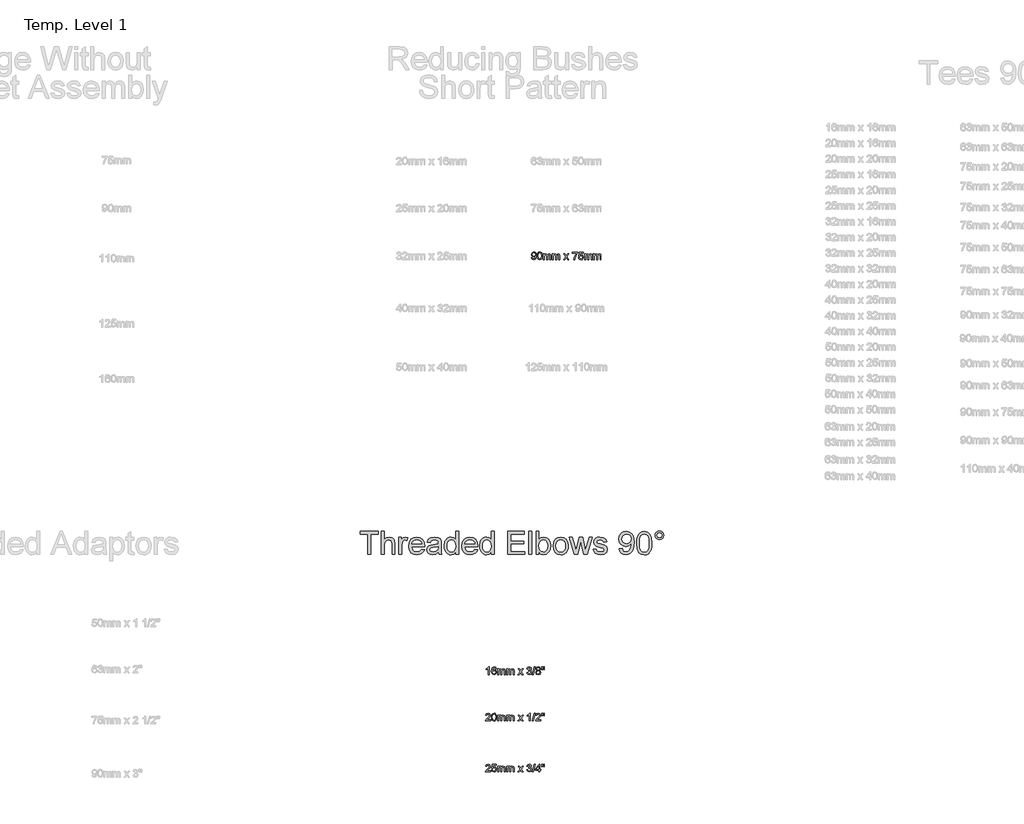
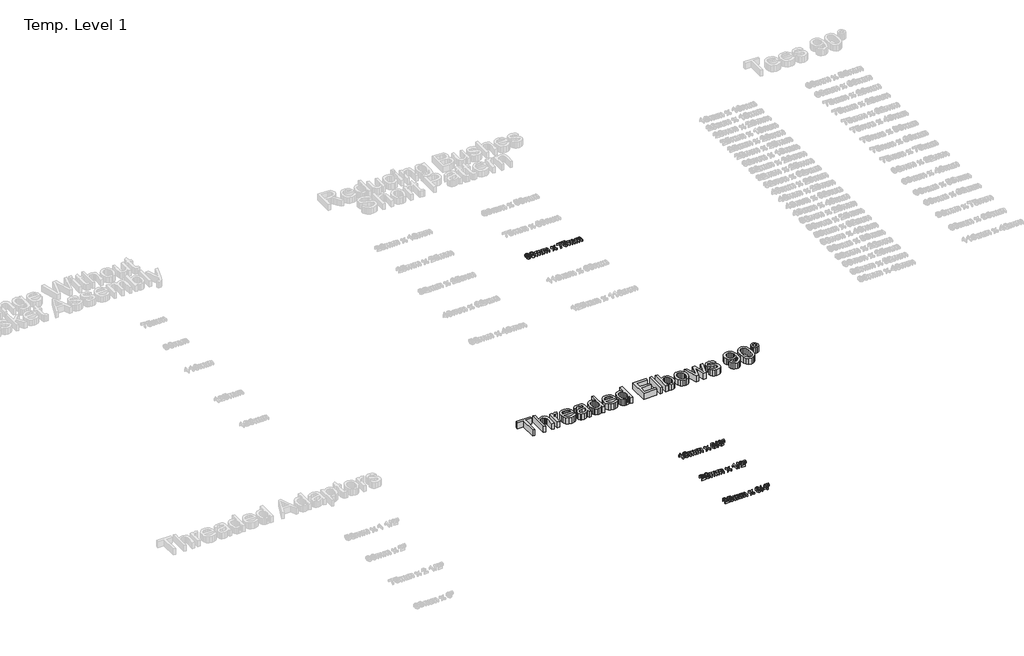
# One storey, part 23 of 62: 5 proxies.
"""IFC4 building model written with IfcOpenShell, lengths in millimetres."""

from ifc_helpers import new_model, si_unit, origin, origin_with_axes, place, context, project, spatial, polyline, outline, extrude, element, save

model = new_model("IFC4")

# Units and contexts
model_context = context("Model", 3, world=origin())
ifc_project = project(units=[si_unit("LENGTHUNIT", "METRE", prefix="MILLI")], contexts=[model_context])

# Site, building, storey
site = spatial("IfcSite", under=ifc_project)
building = spatial("IfcBuilding", under=site)
storey = spatial("IfcBuildingStorey", under=building, Name="Temp. Level 1", Elevation=0.0)

# Proxies
placement = place(None, origin())
element("IfcBuildingElementProxy", 1, Name="150mm Arial", ObjectType="150mm Arial", at=placement, inside=storey, context=model_context, shape_type="SweptSolid", body=[
    extrude(outline(polyline([(23494.9637904, -10070.198517), (23494.9637904, -9940.9677478), (23446.5022519, -9940.9677478), (23446.5022519, -9922.5062093), (23561.8868673, -9922.5062093), (23561.8868673, -9940.9677478), (23513.4253288, -9940.9677478), (23513.4253288, -10070.198517), (23494.9637904, -10070.198517)])), origin_with_axes(), (0.0, 0.0, 1.0), 50.0),
    extrude(outline(polyline([(23580.3484058, -10070.198517), (23580.3484058, -9922.5062093), (23598.8099442, -9922.5062093), (23598.8099442, -9976.8090939), (23613.2059779, -9963.7742382), (23630.9373481, -9959.4292862), (23651.6705212, -9964.1708728), (23664.2546558, -9977.2778439), (23668.0407135, -10001.5446709), (23668.0407135, -10070.198517), (23649.579175, -10070.198517), (23649.579175, -10003.4557286), (23648.109824, -9991.8992382), (23643.7017712, -9983.9845747), (23636.5984058, -9979.4142622), (23627.0431173, -9977.8908247), (23611.9169154, -9982.0014016), (23601.8207615, -9993.1432286), (23598.8099442, -10012.5783247), (23598.8099442, -10070.198517), (23580.3484058, -10070.198517)])), origin_with_axes(), (0.0, 0.0, 1.0), 50.0),
    extrude(outline(polyline([(23693.4253288, -10070.198517), (23693.4253288, -9961.7369786), (23709.579175, -9961.7369786), (23709.579175, -9977.7826516), (23721.0455212, -9962.9989978), (23732.5839827, -9959.4292862), (23751.1176365, -9965.1264016), (23744.9517712, -9981.6768824), (23731.9710019, -9977.8908247), (23721.5323, -9981.5326516), (23714.8796558, -9991.6288055), (23711.8868673, -10013.1913055), (23711.8868673, -10070.198517), (23693.4253288, -10070.198517)])), origin_with_axes(), (0.0, 0.0, 1.0), 50.0),
    extrude(outline(polyline([(23838.5935981, -10037.8908247), (23856.6945596, -10040.198517), (23850.1726245, -10053.8373391), (23839.7654731, -10064.0326516), (23825.7074803, -10070.3878199), (23808.2330212, -10072.5062093), (23786.5713625, -10068.8508608), (23769.9036942, -10057.8848151), (23759.2756894, -10040.3202117), (23755.7330212, -10016.8691901), (23759.3117471, -9992.6294064), (23770.047925, -9974.5014016), (23786.4902327, -9963.1973151), (23807.1873481, -9959.4292862), (23827.2399322, -9963.1883007), (23843.2630692, -9974.4653439), (23853.7693793, -9992.5572911), (23857.2714827, -10016.761017), (23857.1633096, -10021.7369786), (23774.1945596, -10021.7369786), (23777.3901726, -10035.5560891), (23784.81355, -10045.7153439), (23795.5271918, -10051.9623391), (23808.5935981, -10054.0446709), (23826.6945596, -10050.1864978), (23838.5935981, -10037.8908247)]), holes=[polyline([(23774.1945596, -10003.2754401), (23838.8099442, -10003.2754401), (23836.312949, -9993.5218343), (23831.4181173, -9986.5446709), (23820.6548962, -9980.0542862), (23807.1152327, -9977.8908247), (23794.6708216, -9979.6170867), (23784.3808577, -9984.7958728), (23777.227913, -9992.8682887), (23774.1945596, -10003.2754401)])]), origin_with_axes(), (0.0, 0.0, 1.0), 50.0),
    extrude(outline(polyline([(23944.9637904, -10056.3523632), (23927.0611462, -10068.8643824), (23907.2835019, -10072.5062093), (23891.8553168, -10070.3157045), (23880.4746077, -10063.7441901), (23873.4568793, -10053.7652237), (23871.1176365, -10041.3523632), (23874.6512904, -10026.7489978), (23883.9361462, -10016.1480362), (23896.8628288, -10010.0903439), (23912.8363865, -10007.3139016), (23944.8556173, -10000.9677478), (23944.9637904, -9996.8571709), (23943.6927567, -9988.6179882), (23939.8796558, -9983.2273632), (23931.3520115, -9979.2249593), (23919.4710019, -9977.8908247), (23900.7931173, -9981.4425074), (23891.8868673, -9994.0446709), (23873.4253288, -9991.7369786), (23881.4121077, -9973.7081324), (23897.4938385, -9963.1432286), (23921.8508096, -9959.4292862), (23944.2246077, -9962.7105362), (23956.8628288, -9970.9497189), (23962.5238865, -9983.479767), (23963.4253288, -9999.6336132), (23963.4253288, -10022.6023632), (23964.3628288, -10054.6756805), (23968.0407135, -10070.198517), (23949.579175, -10070.198517), (23944.9637904, -10056.3523632)]), holes=[polyline([(23944.9637904, -10019.4292862), (23915.1801365, -10025.0903439), (23899.2967231, -10028.0831324), (23892.1032135, -10032.9509209), (23889.579175, -10040.0542862), (23895.0779731, -10050.042267), (23911.2137904, -10054.0446709), (23929.891675, -10049.6276036), (23941.9349442, -10038.9364978), (23944.8556173, -10024.6576516), (23944.9637904, -10019.4292862)])]), origin_with_axes(), (0.0, 0.0, 1.0), 50.0),
    extrude(outline(polyline([(24055.7330212, -10070.198517), (24055.7330212, -10052.7826516), (24043.5184779, -10067.5753199), (24026.6344635, -10072.5062093), (24014.6993673, -10070.7213536), (24003.7738865, -10065.3667862), (23994.5250885, -10056.816606), (23987.6200404, -10045.4449112), (23983.3201606, -10031.7114377), (23981.8868673, -10016.0759209), (23987.1693192, -9986.6889016), (23993.7678769, -9975.0332526), (24002.9986462, -9966.4605362), (24014.1630091, -9961.1870987), (24026.5623481, -9959.4292862), (24043.5815788, -9964.4593343), (24055.7330212, -9977.5302478), (24055.7330212, -9922.5062093), (24074.1945596, -9922.5062093), (24074.1945596, -10070.198517), (24055.7330212, -10070.198517)]), holes=[polyline([(24000.3484058, -10016.0038055), (24002.4307375, -10032.7030242), (24008.6777327, -10044.5795266), (24017.7552567, -10051.6783848), (24028.329175, -10054.0446709), (24038.8985861, -10051.7865579), (24047.7462423, -10045.0122189), (24053.7363264, -10033.5954521), (24055.7330212, -10017.4100555), (24053.7002688, -9999.714743), (24047.6020115, -9987.4461132), (24038.5289947, -9980.2796468), (24027.5719635, -9977.8908247), (24016.8898721, -9980.1849954), (24008.1368673, -9987.0675074), (24002.2955212, -9998.8899233), (24000.3484058, -10016.0038055)])]), origin_with_axes(), (0.0, 0.0, 1.0), 50.0),
    extrude(outline(polyline([(24177.8243673, -10037.8908247), (24195.9253288, -10040.198517), (24189.4033938, -10053.8373391), (24178.9962423, -10064.0326516), (24164.9382495, -10070.3878199), (24147.4637904, -10072.5062093), (24125.8021317, -10068.8508608), (24109.1344635, -10057.8848151), (24098.5064587, -10040.3202117), (24094.9637904, -10016.8691901), (24098.5425163, -9992.6294064), (24109.2786942, -9974.5014016), (24125.7210019, -9963.1973151), (24146.4181173, -9959.4292862), (24166.4707014, -9963.1883007), (24182.4938385, -9974.4653439), (24193.0001486, -9992.5572911), (24196.5022519, -10016.761017), (24196.3940788, -10021.7369786), (24113.4253288, -10021.7369786), (24116.6209418, -10035.5560891), (24124.0443192, -10045.7153439), (24134.7579611, -10051.9623391), (24147.8243673, -10054.0446709), (24165.9253288, -10050.1864978), (24177.8243673, -10037.8908247)]), holes=[polyline([(24113.4253288, -10003.2754401), (24178.0407135, -10003.2754401), (24175.5437183, -9993.5218343), (24170.6488865, -9986.5446709), (24159.8856654, -9980.0542862), (24146.3460019, -9977.8908247), (24133.9015909, -9979.6170867), (24123.6116269, -9984.7958728), (24116.4586822, -9992.8682887), (24113.4253288, -10003.2754401)])]), origin_with_axes(), (0.0, 0.0, 1.0), 50.0),
    extrude(outline(polyline([(24281.8868673, -10070.198517), (24281.8868673, -10052.7826516), (24269.672324, -10067.5753199), (24252.7883096, -10072.5062093), (24240.8532135, -10070.7213536), (24229.9277327, -10065.3667862), (24220.6789346, -10056.816606), (24213.7738865, -10045.4449112), (24209.4740067, -10031.7114377), (24208.0407135, -10016.0759209), (24213.3231654, -9986.6889016), (24219.9217231, -9975.0332526), (24229.1524923, -9966.4605362), (24240.3168553, -9961.1870987), (24252.7161942, -9959.4292862), (24269.735425, -9964.4593343), (24281.8868673, -9977.5302478), (24281.8868673, -9922.5062093), (24300.3484058, -9922.5062093), (24300.3484058, -10070.198517), (24281.8868673, -10070.198517)]), holes=[polyline([(24226.5022519, -10016.0038055), (24228.5845837, -10032.7030242), (24234.8315788, -10044.5795266), (24243.9091029, -10051.6783848), (24254.4830212, -10054.0446709), (24265.0524322, -10051.7865579), (24273.9000885, -10045.0122189), (24279.8901726, -10033.5954521), (24281.8868673, -10017.4100555), (24279.8541149, -9999.714743), (24273.7558577, -9987.4461132), (24264.6828409, -9980.2796468), (24253.7258096, -9977.8908247), (24243.0437183, -9980.1849954), (24234.2907135, -9987.0675074), (24228.4493673, -9998.8899233), (24226.5022519, -10016.0038055)])]), origin_with_axes(), (0.0, 0.0, 1.0), 50.0),
    extrude(outline(polyline([(24388.0407135, -10070.198517), (24388.0407135, -9922.5062093), (24494.1945596, -9922.5062093), (24494.1945596, -9940.9677478), (24406.5022519, -9940.9677478), (24406.5022519, -9984.8139016), (24489.579175, -9984.8139016), (24489.579175, -10003.2754401), (24406.5022519, -10003.2754401), (24406.5022519, -10051.7369786), (24496.5022519, -10051.7369786), (24496.5022519, -10070.198517), (24388.0407135, -10070.198517)])), origin_with_axes(), (0.0, 0.0, 1.0), 50.0),
    extrude(outline(polyline([(24521.8868673, -10070.198517), (24521.8868673, -9922.5062093), (24540.3484058, -9922.5062093), (24540.3484058, -10070.198517), (24521.8868673, -10070.198517)])), origin_with_axes(), (0.0, 0.0, 1.0), 50.0),
    extrude(outline(polyline([(24586.5022519, -10070.198517), (24568.0407135, -10070.198517), (24568.0407135, -9922.5062093), (24586.5022519, -9922.5062093), (24586.5022519, -9977.2778439), (24599.4289346, -9963.8914257), (24615.4926365, -9959.4292862), (24633.9902327, -9963.4497189), (24648.3411942, -9974.7538055), (24657.1573, -9992.3319305), (24660.3484058, -10014.3451516), (24657.0446197, -10038.9905843), (24647.1332615, -10057.3259209), (24632.5884899, -10068.7111372), (24615.3844635, -10072.5062093), (24598.969199, -10067.6113776), (24586.5022519, -10052.9268824), (24586.5022519, -10070.198517)]), holes=[polyline([(24586.5022519, -10015.2105362), (24587.7642712, -10030.6071709), (24591.5503288, -10041.0278439), (24601.2228048, -10050.7904641), (24613.797925, -10054.0446709), (24624.4529731, -10051.6468343), (24633.5575404, -10044.4533247), (24639.8045356, -10032.5092141), (24641.8868673, -10015.8595747), (24639.8901726, -9998.9665459), (24633.9000885, -9987.1576516), (24625.0794755, -9980.2075314), (24614.5911942, -9977.8908247), (24603.9361462, -9980.2886612), (24594.8315788, -9987.4821709), (24588.5845837, -9999.2099353), (24586.5022519, -10015.2105362)])]), origin_with_axes(), (0.0, 0.0, 1.0), 50.0),
    extrude(outline(polyline([(24676.5022519, -10015.9677478), (24680.4956413, -9989.8169064), (24692.4758096, -9971.4364978), (24707.2774923, -9962.4310891), (24724.9998481, -9959.4292862), (24744.3943793, -9963.0846348), (24759.8856654, -9974.0506805), (24770.040413, -9991.4620387), (24773.4253288, -10014.4533247), (24771.9289346, -10033.1041661), (24767.4397519, -10047.3018824), (24760.0884899, -10057.9343944), (24750.0058577, -10065.8896228), (24738.0301966, -10070.8520627), (24724.9998481, -10072.5062093), (24705.3709418, -10068.8643824), (24689.8976846, -10057.9389016), (24679.8511101, -10040.1624593), (24676.5022519, -10015.9677478)]), holes=[polyline([(24694.9637904, -10015.9316901), (24697.1002087, -10032.6399233), (24703.5094635, -10044.5434689), (24713.1548962, -10051.6693704), (24724.9998481, -10054.0446709), (24736.7907135, -10051.6558487), (24746.4181173, -10044.4893824), (24752.8273721, -10032.4280843), (24754.9637904, -10015.354767), (24752.8138505, -9999.1333127), (24746.3640308, -9987.3920266), (24736.7231053, -9980.2661252), (24724.9998481, -9977.8908247), (24713.1548962, -9980.2571108), (24703.5094635, -9987.3559689), (24697.1002087, -9999.2324713), (24694.9637904, -10015.9316901)])]), origin_with_axes(), (0.0, 0.0, 1.0), 50.0),
    extrude(outline(polyline([(24812.1873481, -10070.198517), (24779.1945596, -9961.7369786), (24798.3772519, -9961.7369786), (24817.0911942, -10025.0182286), (24822.6801365, -10047.6264016), (24827.2594635, -10025.8475555), (24842.1512904, -9961.7369786), (24864.1464827, -9961.7369786), (24878.9661942, -10025.667267), (24883.0407135, -10045.3908247), (24888.8820596, -10024.5855362), (24907.6320596, -9961.7369786), (24926.8868673, -9961.7369786), (24893.641675, -10070.198517), (24871.3219635, -10070.198517), (24857.1512904, -10006.5927478), (24853.0407135, -9986.761017), (24834.7594635, -10070.198517), (24812.1873481, -10070.198517)])), origin_with_axes(), (0.0, 0.0, 1.0), 50.0),
    extrude(outline(polyline([(24932.6560981, -10037.8908247), (24951.1176365, -10035.5831324), (24954.0292952, -10043.479767), (24959.6633096, -10049.2850555), (24979.2426365, -10054.0446709), (24998.0647519, -10049.6816901), (25004.1945596, -10039.4413055), (24998.0286942, -10031.1480362), (24979.0262904, -10025.8836132), (24951.2258096, -10016.8511612), (24939.0923962, -10006.3042862), (24934.9637904, -9991.4124593), (24938.2810981, -9977.6564497), (24947.3315788, -9967.1456324), (24959.0683577, -9961.682892), (24974.9517712, -9959.4292862), (24997.4157135, -9963.0530843), (25011.6945596, -9972.8607766), (25018.0407135, -9989.4292862), (24999.579175, -9991.7369786), (24992.6380692, -9981.5506805), (24976.3940788, -9977.8908247), (24958.7258096, -9981.3884209), (24953.4253288, -9989.5374593), (24955.6248481, -9994.9100555), (24962.5118673, -9998.9845747), (24978.4133096, -10002.9148632), (25005.5106654, -10011.604767), (25018.0948, -10021.448517), (25022.6560981, -10037.4941901), (25017.3015308, -10055.1624593), (25001.8508096, -10067.9809689), (24978.9902327, -10072.5062093), (24960.375449, -10070.3247189), (24946.7907135, -10063.7802478), (24937.7222038, -10052.9449112), (24932.6560981, -10037.8908247)])), origin_with_axes(), (0.0, 0.0, 1.0), 50.0),
    extrude(outline(polyline([(25098.8099442, -10033.2754401), (25117.2714827, -10030.9677478), (25120.4265308, -10041.4470146), (25125.5647519, -10048.5819305), (25141.2859058, -10054.0446709), (25156.2318192, -10050.5290459), (25166.3640308, -10041.136017), (25172.4036942, -10025.0903439), (25175.0719635, -10003.6720747), (25174.9637904, -10000.0663055), (25160.1981654, -10014.0566901), (25139.9517712, -10019.4292862), (25123.1173361, -10016.1480362), (25109.1044154, -10006.3042862), (25099.6527928, -9991.0969545), (25096.5022519, -9971.7249593), (25099.806038, -9951.7129401), (25109.7173962, -9936.0278439), (25124.6047159, -9925.886618), (25142.8363865, -9922.5062093), (25156.6059178, -9924.4352959), (25169.1404731, -9930.2225555), (25179.6242471, -9939.5795266), (25187.2414346, -9952.2177478), (25191.8793553, -9969.6876997), (25193.4253288, -9993.5398632), (25191.8838625, -10018.8298271), (25187.2594635, -10038.3776036), (25179.5926966, -10053.066606), (25168.9241269, -10063.7802478), (25155.7134899, -10070.3247189), (25140.4205212, -10072.5062093), (25124.6362663, -10069.9325915), (25112.0431173, -10062.2117382), (25103.236026, -10049.8304281), (25098.8099442, -10033.2754401)]), holes=[polyline([(25174.9637904, -9971.292267), (25172.9716029, -9958.7802478), (25166.9950404, -9949.1528439), (25157.719199, -9943.0140218), (25145.829175, -9940.9677478), (25133.4974442, -9943.1717742), (25123.6176365, -9949.7838536), (25117.1272519, -9959.9025435), (25114.9637904, -9972.6264016), (25117.0100644, -9984.034154), (25123.1488865, -9993.089142), (25132.7853048, -9998.9980963), (25145.3243673, -10000.9677478), (25157.1197399, -9998.9980963), (25166.6164346, -9993.089142), (25172.8769514, -9983.7006204), (25174.9637904, -9971.292267)])]), origin_with_axes(), (0.0, 0.0, 1.0), 50.0),
    extrude(outline(polyline([(25209.579175, -9997.542267), (25210.9358457, -9973.9019425), (25215.0058577, -9955.0482766), (25221.7486462, -9940.6928079), (25231.1236462, -9930.5470747), (25243.1984659, -9924.5164257), (25258.0407135, -9922.5062093), (25279.6032135, -9927.2658247), (25294.4950404, -9940.9857766), (25303.1488865, -9962.8367382), (25306.5022519, -9997.542267), (25305.1591029, -10021.0473752), (25301.1296558, -10039.8559689), (25294.4274322, -10054.2249593), (25285.0659538, -10064.4112574), (25272.9640909, -10070.4824713), (25258.0407135, -10072.5062093), (25238.8580212, -10068.9905843), (25224.2907135, -10058.4437093), (25213.2570596, -10033.464743), (25209.579175, -9997.542267)]), holes=[polyline([(25228.0407135, -9997.5062093), (25230.204175, -10026.5461733), (25236.6945596, -10043.3535651), (25246.3580212, -10051.3718944), (25258.0407135, -10054.0446709), (25269.7234058, -10051.36288), (25279.3868673, -10043.3175074), (25285.8772519, -10026.5011012), (25288.0407135, -9997.5062093), (25285.9493673, -9969.1197911), (25279.6753288, -9952.1816901), (25270.0298962, -9943.7712334), (25257.8243673, -9940.9677478), (25246.2678769, -9943.4376997), (25236.9830212, -9950.8475555), (25230.2762904, -9968.8403439), (25228.0407135, -9997.5062093)])]), origin_with_axes(), (0.0, 0.0, 1.0), 50.0),
    extrude(outline(polyline([(25327.2714827, -9947.854767), (25329.3042351, -9937.2087334), (25335.4024923, -9928.2754401), (25344.3493072, -9922.2177478), (25354.9277327, -9920.198517), (25365.6278529, -9922.2177478), (25374.579175, -9928.2754401), (25380.6368673, -9937.2087334), (25382.6560981, -9947.854767), (25380.6233457, -9958.487279), (25374.5250885, -9967.4521228), (25365.5602447, -9973.55038), (25354.9277327, -9975.5831324), (25344.3493072, -9973.5639016), (25335.4024923, -9967.5062093), (25329.3042351, -9958.5548872), (25327.2714827, -9947.854767)]), holes=[polyline([(25338.8099442, -9947.8908247), (25343.5515308, -9959.3211132), (25354.9998481, -9964.0446709), (25366.37605, -9959.3211132), (25371.1176365, -9947.8908247), (25366.37605, -9936.4605362), (25354.9998481, -9931.7369786), (25343.5515308, -9936.4605362), (25338.8099442, -9947.8908247)])]), origin_with_axes(), (0.0, 0.0, 1.0), 50.0),
])
element("IfcBuildingElementProxy", 2, Name="50mm Arial", ObjectType="50mm Arial", at=placement, inside=storey, context=model_context, shape_type="SweptSolid", body=[
    extrude(outline(polyline([(24538.8207934, -8177.9674528), (24544.9746395, -8177.198222), (24547.7390626, -8183.0696163), (24552.9794472, -8184.8905297), (24557.9614184, -8183.7186547), (24561.3388222, -8180.5876451), (24563.3520434, -8175.2390874), (24564.2414665, -8168.0996643), (24559.2835338, -8171.5612028), (24552.5347357, -8173.3520682), (24542.2522838, -8168.9770682), (24538.0515626, -8157.4506259), (24542.4566107, -8145.5515874), (24553.4962742, -8141.0443759), (24562.264303, -8143.6164913), (24568.2979568, -8150.948222), (24570.3592549, -8164.7222605), (24568.3039665, -8179.668174), (24562.1921876, -8188.135722), (24552.6909857, -8191.0443759), (24543.2318511, -8187.6128855), (24538.8207934, -8177.9674528)]), holes=[polyline([(24564.2054088, -8157.3063951), (24561.5491588, -8149.9265874), (24554.4938703, -8147.198222), (24547.0900242, -8150.136924), (24544.2054088, -8157.7511066), (24546.9337742, -8164.5720201), (24554.3256011, -8167.198222), (24561.4229568, -8164.5720201), (24564.2054088, -8157.3063951)])]), origin_with_axes(), (0.0, 0.0, 1.0), 15.0),
    extrude(outline(polyline([(24575.7438703, -8166.0563951), (24577.5527645, -8151.8917316), (24582.9253607, -8143.7246643), (24591.8977165, -8141.0443759), (24599.0852165, -8142.6309143), (24604.0491588, -8147.2042316), (24606.9337742, -8154.4878855), (24608.0515626, -8166.0563951), (24606.2606972, -8180.1609624), (24600.9061299, -8188.3460586), (24591.8977165, -8191.0443759), (24580.6477165, -8186.3568759), (24576.9698318, -8178.0305538), (24575.7438703, -8166.0563951)]), holes=[polyline([(24581.8977165, -8166.0443759), (24584.7823318, -8181.3268278), (24591.8977165, -8184.8905297), (24599.0131011, -8181.3148086), (24601.8977165, -8166.0443759), (24599.1092549, -8150.9362028), (24591.8256011, -8147.198222), (24584.8784857, -8150.4914913), (24581.8977165, -8166.0443759)])]), origin_with_axes(), (0.0, 0.0, 1.0), 15.0),
    extrude(outline(polyline([(24614.9746395, -8190.2751451), (24614.9746395, -8154.121299), (24621.1284857, -8154.121299), (24621.1284857, -8160.0708182), (24625.3592549, -8155.1970201), (24631.3808895, -8153.3520682), (24637.5467549, -8155.2330778), (24640.936178, -8160.5035105), (24645.7378607, -8155.1399288), (24651.8015626, -8153.3520682), (24659.8484376, -8156.3268278), (24662.6669472, -8165.4914913), (24662.6669472, -8190.2751451), (24656.5131011, -8190.2751451), (24656.5131011, -8168.135722), (24655.9421876, -8162.9975009), (24653.8748799, -8160.4674528), (24650.3592549, -8159.5059143), (24644.3075722, -8161.9698566), (24641.8977165, -8169.8664913), (24641.8977165, -8190.2751451), (24635.7438703, -8190.2751451), (24635.7438703, -8167.4506259), (24634.3195915, -8161.4890874), (24629.6501203, -8159.5059143), (24625.0948318, -8160.8280297), (24622.0659857, -8164.698222), (24621.1284857, -8172.041972), (24621.1284857, -8190.2751451), (24614.9746395, -8190.2751451)])), origin_with_axes(), (0.0, 0.0, 1.0), 15.0),
    extrude(outline(polyline([(24671.8977165, -8190.2751451), (24671.8977165, -8154.121299), (24678.0515626, -8154.121299), (24678.0515626, -8160.0708182), (24682.2823318, -8155.1970201), (24688.3039665, -8153.3520682), (24694.4698318, -8155.2330778), (24697.8592549, -8160.5035105), (24702.6609376, -8155.1399288), (24708.7246395, -8153.3520682), (24716.7715145, -8156.3268278), (24719.5900242, -8165.4914913), (24719.5900242, -8190.2751451), (24713.436178, -8190.2751451), (24713.436178, -8168.135722), (24712.8652645, -8162.9975009), (24710.7979568, -8160.4674528), (24707.2823318, -8159.5059143), (24701.2306492, -8161.9698566), (24698.8207934, -8169.8664913), (24698.8207934, -8190.2751451), (24692.6669472, -8190.2751451), (24692.6669472, -8167.4506259), (24691.2426684, -8161.4890874), (24686.5731972, -8159.5059143), (24682.0179088, -8160.8280297), (24678.9890626, -8164.698222), (24678.0515626, -8172.041972), (24678.0515626, -8190.2751451), (24671.8977165, -8190.2751451)])), origin_with_axes(), (0.0, 0.0, 1.0), 15.0),
    extrude(outline(polyline([(24744.2054088, -8190.2751451), (24757.3544472, -8172.1020682), (24744.9746395, -8154.121299), (24752.3784857, -8154.121299), (24758.3520434, -8162.7751451), (24761.1405049, -8166.8616836), (24763.5563703, -8163.5203374), (24770.3592549, -8154.121299), (24777.7631011, -8154.121299), (24764.7582934, -8172.1020682), (24777.2823318, -8190.2751451), (24769.8784857, -8190.2751451), (24762.342428, -8179.3496643), (24760.9602165, -8177.354472), (24751.6092549, -8190.2751451), (24744.2054088, -8190.2751451)])), origin_with_axes(), (0.0, 0.0, 1.0), 15.0),
    extrude(outline(polyline([(24800.3592549, -8147.9674528), (24800.3592549, -8141.8136066), (24832.6669472, -8141.8136066), (24832.6669472, -8146.7895682), (24823.5022838, -8160.0287509), (24816.4890626, -8176.8977413), (24814.2054088, -8190.2751451), (24808.0515626, -8190.2751451), (24810.4974761, -8176.3929336), (24817.2102165, -8160.7018278), (24826.5131011, -8147.9674528), (24800.3592549, -8147.9674528)])), origin_with_axes(), (0.0, 0.0, 1.0), 15.0),
    extrude(outline(polyline([(24838.0515626, -8177.198222), (24844.2054088, -8176.4289913), (24847.3063703, -8182.7691355), (24853.7366588, -8184.8905297), (24861.4530049, -8181.9398086), (24864.2054088, -8174.1092797), (24861.6272838, -8166.8015874), (24853.8328126, -8164.121299), (24848.4301684, -8165.1910105), (24844.9746395, -8167.9674528), (24838.8207934, -8167.198222), (24844.2054088, -8141.8136066), (24868.0515626, -8141.8136066), (24868.0515626, -8147.9674528), (24849.1813703, -8147.9674528), (24846.5491588, -8161.5251451), (24855.5515626, -8157.9674528), (24866.0743992, -8162.3785105), (24870.3592549, -8173.7246643), (24866.5010818, -8185.1429336), (24860.9602165, -8189.5690153), (24853.7126203, -8191.0443759), (24842.8532453, -8187.2523086), (24838.0515626, -8177.198222)])), origin_with_axes(), (0.0, 0.0, 1.0), 15.0),
    extrude(outline(polyline([(24877.2823318, -8190.2751451), (24877.2823318, -8154.121299), (24883.436178, -8154.121299), (24883.436178, -8160.0708182), (24887.6669472, -8155.1970201), (24893.6885818, -8153.3520682), (24899.8544472, -8155.2330778), (24903.2438703, -8160.5035105), (24908.045553, -8155.1399288), (24914.1092549, -8153.3520682), (24922.1561299, -8156.3268278), (24924.9746395, -8165.4914913), (24924.9746395, -8190.2751451), (24918.8207934, -8190.2751451), (24918.8207934, -8168.135722), (24918.2498799, -8162.9975009), (24916.1825722, -8160.4674528), (24912.6669472, -8159.5059143), (24906.6152645, -8161.9698566), (24904.2054088, -8169.8664913), (24904.2054088, -8190.2751451), (24898.0515626, -8190.2751451), (24898.0515626, -8167.4506259), (24896.6272838, -8161.4890874), (24891.9578126, -8159.5059143), (24887.4025242, -8160.8280297), (24884.373678, -8164.698222), (24883.436178, -8172.041972), (24883.436178, -8190.2751451), (24877.2823318, -8190.2751451)])), origin_with_axes(), (0.0, 0.0, 1.0), 15.0),
    extrude(outline(polyline([(24934.2054088, -8190.2751451), (24934.2054088, -8154.121299), (24940.3592549, -8154.121299), (24940.3592549, -8160.0708182), (24944.5900242, -8155.1970201), (24950.6116588, -8153.3520682), (24956.7775242, -8155.2330778), (24960.1669472, -8160.5035105), (24964.9686299, -8155.1399288), (24971.0323318, -8153.3520682), (24979.0792068, -8156.3268278), (24981.8977165, -8165.4914913), (24981.8977165, -8190.2751451), (24975.7438703, -8190.2751451), (24975.7438703, -8168.135722), (24975.1729568, -8162.9975009), (24973.1056492, -8160.4674528), (24969.5900242, -8159.5059143), (24963.5383415, -8161.9698566), (24961.1284857, -8169.8664913), (24961.1284857, -8190.2751451), (24954.9746395, -8190.2751451), (24954.9746395, -8167.4506259), (24953.5503607, -8161.4890874), (24948.8808895, -8159.5059143), (24944.3256011, -8160.8280297), (24941.2967549, -8164.698222), (24940.3592549, -8172.041972), (24940.3592549, -8190.2751451), (24934.2054088, -8190.2751451)])), origin_with_axes(), (0.0, 0.0, 1.0), 15.0),
])
element("IfcBuildingElementProxy", 3, Name="50mm Arial", ObjectType="50mm Arial", at=placement, inside=storey, context=model_context, shape_type="SweptSolid", body=[
    extrude(outline(polyline([(24269.3732177, -10836.5145212), (24263.2193716, -10836.5145212), (24263.2193716, -10798.1491366), (24257.3900446, -10802.3017809), (24250.9116792, -10805.408752), (24250.9116792, -10799.5914443), (24259.9321119, -10793.8342328), (24265.4068716, -10787.283752), (24269.3732177, -10787.283752), (24269.3732177, -10836.5145212)])), origin_with_axes(), (0.0, 0.0, 1.0), 15.0),
    extrude(outline(polyline([(24315.5270639, -10800.3606751), (24309.3732177, -10801.1299059), (24307.0414869, -10795.9976943), (24300.8756216, -10793.4375982), (24295.3227369, -10794.9279828), (24291.1220158, -10800.5229347), (24289.3732177, -10811.4904828), (24294.7999004, -10806.580627), (24301.52466, -10804.9760597), (24311.9813908, -10809.3630789), (24316.2962946, -10820.6972135), (24314.2650446, -10829.1888001), (24308.6761023, -10835.1984155), (24300.6111985, -10837.283752), (24288.0691312, -10831.7549059), (24284.4318115, -10824.4351943), (24283.2193716, -10813.533752), (24284.5655254, -10801.2771414), (24288.6039869, -10792.8967328), (24294.1178091, -10788.6869972), (24301.2602369, -10787.283752), (24310.9837946, -10790.7573097), (24315.5270639, -10800.3606751)]), holes=[polyline([(24289.3732177, -10820.6010597), (24290.7974966, -10825.9315885), (24294.5835542, -10829.8017809), (24300.1304292, -10831.1299059), (24307.384035, -10828.377502), (24310.1424485, -10820.9015405), (24307.4200927, -10813.7440885), (24299.8780254, -10811.1299059), (24292.4321119, -10813.7440885), (24289.3732177, -10820.6010597)])]), origin_with_axes(), (0.0, 0.0, 1.0), 15.0),
    extrude(outline(polyline([(24323.2193716, -10836.5145212), (24323.2193716, -10800.3606751), (24329.3732177, -10800.3606751), (24329.3732177, -10806.3101943), (24333.6039869, -10801.4363962), (24339.6256216, -10799.5914443), (24345.7914869, -10801.4724539), (24349.18091, -10806.7428866), (24353.9825927, -10801.3793049), (24360.0462946, -10799.5914443), (24368.0931696, -10802.5662039), (24370.9116792, -10811.7308674), (24370.9116792, -10836.5145212), (24364.7578331, -10836.5145212), (24364.7578331, -10814.3750982), (24364.1869196, -10809.236877), (24362.1196119, -10806.7068289), (24358.6039869, -10805.7452905), (24352.5523042, -10808.2092328), (24350.1424485, -10816.1058674), (24350.1424485, -10836.5145212), (24343.9886023, -10836.5145212), (24343.9886023, -10813.690002), (24342.5643235, -10807.7284635), (24337.8948523, -10805.7452905), (24333.3395639, -10807.0674059), (24330.3107177, -10810.9375982), (24329.3732177, -10818.2813482), (24329.3732177, -10836.5145212), (24323.2193716, -10836.5145212)])), origin_with_axes(), (0.0, 0.0, 1.0), 15.0),
    extrude(outline(polyline([(24380.1424485, -10836.5145212), (24380.1424485, -10800.3606751), (24386.2962946, -10800.3606751), (24386.2962946, -10806.3101943), (24390.5270639, -10801.4363962), (24396.5486985, -10799.5914443), (24402.7145639, -10801.4724539), (24406.1039869, -10806.7428866), (24410.9056696, -10801.3793049), (24416.9693716, -10799.5914443), (24425.0162466, -10802.5662039), (24427.8347562, -10811.7308674), (24427.8347562, -10836.5145212), (24421.68091, -10836.5145212), (24421.68091, -10814.3750982), (24421.1099966, -10809.236877), (24419.0426889, -10806.7068289), (24415.5270639, -10805.7452905), (24409.4753812, -10808.2092328), (24407.0655254, -10816.1058674), (24407.0655254, -10836.5145212), (24400.9116792, -10836.5145212), (24400.9116792, -10813.690002), (24399.4874004, -10807.7284635), (24394.8179292, -10805.7452905), (24390.2626408, -10807.0674059), (24387.2337946, -10810.9375982), (24386.2962946, -10818.2813482), (24386.2962946, -10836.5145212), (24380.1424485, -10836.5145212)])), origin_with_axes(), (0.0, 0.0, 1.0), 15.0),
    extrude(outline(polyline([(24452.4501408, -10836.5145212), (24465.5991792, -10818.3414443), (24453.2193716, -10800.3606751), (24460.6232177, -10800.3606751), (24466.5967754, -10809.0145212), (24469.3852369, -10813.1010597), (24471.8011023, -10809.7597135), (24478.6039869, -10800.3606751), (24486.0078331, -10800.3606751), (24473.0030254, -10818.3414443), (24485.5270639, -10836.5145212), (24478.1232177, -10836.5145212), (24470.58716, -10825.5890405), (24469.2049485, -10823.5938482), (24459.8539869, -10836.5145212), (24452.4501408, -10836.5145212)])), origin_with_axes(), (0.0, 0.0, 1.0), 15.0),
    extrude(outline(polyline([(24508.6039869, -10823.4375982), (24514.7578331, -10822.6683674), (24518.1532658, -10829.1467328), (24524.5054292, -10831.1299059), (24531.9813908, -10828.4015405), (24534.7578331, -10821.6467328), (24532.0054292, -10815.2825501), (24525.0102369, -10812.7645212), (24520.6953331, -10813.4375982), (24521.3804292, -10807.283752), (24529.3491792, -10805.5890405), (24532.4501408, -10800.1563482), (24530.2025446, -10795.3426462), (24524.4092754, -10793.4375982), (24518.5438908, -10795.3606751), (24515.5270639, -10801.1299059), (24509.3732177, -10800.3606751), (24514.4092754, -10790.7092328), (24524.1929292, -10787.283752), (24531.6148042, -10788.9724539), (24536.8071119, -10793.5878385), (24538.6039869, -10799.7957712), (24536.8972562, -10805.4688482), (24531.8491792, -10809.5433674), (24538.55591, -10813.7500982), (24540.9116792, -10821.7549059), (24536.2001408, -10832.7645212), (24524.2890831, -10837.283752), (24513.4958139, -10833.4255789), (24508.6039869, -10823.4375982)])), origin_with_axes(), (0.0, 0.0, 1.0), 15.0),
    extrude(outline(polyline([(24543.2193716, -10836.5145212), (24557.0655254, -10787.283752), (24562.61841, -10787.283752), (24548.7722562, -10836.5145212), (24543.2193716, -10836.5145212)])), origin_with_axes(), (0.0, 0.0, 1.0), 15.0),
    extrude(outline(polyline([(24574.49341, -10809.3991366), (24568.8864389, -10805.5770212), (24567.0655254, -10799.627502), (24571.0318716, -10790.8414443), (24581.5967754, -10787.283752), (24592.2578331, -10790.9255789), (24596.2962946, -10799.7957712), (24594.4994196, -10805.5950501), (24589.0486985, -10809.3991366), (24595.5931696, -10814.2248578), (24597.8347562, -10822.1875982), (24593.3876408, -10832.9327905), (24581.68091, -10837.283752), (24569.9741792, -10832.9147616), (24565.5270639, -10822.0193289), (24567.8587946, -10813.8702905), (24574.49341, -10809.3991366)]), holes=[polyline([(24571.68091, -10821.8029828), (24572.7085542, -10826.4363962), (24576.3443716, -10829.9039443), (24581.7289869, -10831.1299059), (24589.0607177, -10828.5517809), (24591.68091, -10821.9952905), (24588.9765831, -10815.3125982), (24581.52466, -10812.6683674), (24574.2830735, -10815.2765405), (24571.68091, -10821.8029828)]), polyline([(24573.2193716, -10799.8077905), (24575.4008619, -10804.6395212), (24581.7530254, -10806.5145212), (24587.9789869, -10804.6515405), (24590.1424485, -10800.0842328), (24587.9068716, -10795.3546655), (24581.68091, -10793.4375982), (24575.4369196, -10795.3125982), (24573.2193716, -10799.8077905)])]), origin_with_axes(), (0.0, 0.0, 1.0), 15.0),
    extrude(outline(polyline([(24616.99341, -10804.9760597), (24615.5270639, -10795.4688482), (24615.5270639, -10787.283752), (24621.68091, -10787.283752), (24621.68091, -10795.4688482), (24620.2386023, -10804.9760597), (24616.99341, -10804.9760597)])), origin_with_axes(), (0.0, 0.0, 1.0), 15.0),
    extrude(outline(polyline([(24604.7217754, -10804.9760597), (24603.2193716, -10795.4688482), (24603.2193716, -10787.283752), (24609.3732177, -10787.283752), (24609.3732177, -10795.4688482), (24608.0270639, -10804.9760597), (24604.7217754, -10804.9760597)])), origin_with_axes(), (0.0, 0.0, 1.0), 15.0),
])
element("IfcBuildingElementProxy", 4, Name="50mm Arial", ObjectType="50mm Arial", at=placement, inside=storey, context=model_context, shape_type="SweptSolid", body=[
    extrude(outline(polyline([(24277.8347562, -11125.3606751), (24277.8347562, -11131.5145212), (24245.5270639, -11131.5145212), (24246.1881216, -11127.2717328), (24249.9261023, -11120.7392809), (24257.6304292, -11113.6058674), (24268.2554292, -11103.3534635), (24270.9116792, -11096.3823097), (24268.4056696, -11090.7392809), (24261.8611985, -11088.4375982), (24255.040285, -11090.6851943), (24252.4501408, -11096.8991366), (24246.2962946, -11096.1299059), (24251.0138427, -11085.8294251), (24261.99341, -11082.283752), (24273.009035, -11086.2260597), (24277.0655254, -11096.0097135), (24275.9717754, -11101.8450501), (24272.3359581, -11107.8787039), (24263.5198523, -11116.3101943), (24256.4405254, -11122.2296655), (24253.6640831, -11125.3606751), (24277.8347562, -11125.3606751)])), origin_with_axes(), (0.0, 0.0, 1.0), 15.0),
    extrude(outline(polyline([(24283.9886023, -11107.2957712), (24285.7974966, -11093.1311078), (24291.1700927, -11084.9640405), (24300.1424485, -11082.283752), (24307.3299485, -11083.8702905), (24312.2938908, -11088.4436078), (24315.1785062, -11095.7272616), (24316.2962946, -11107.2957712), (24314.5054292, -11121.4003385), (24309.1508619, -11129.5854347), (24300.1424485, -11132.283752), (24288.8924485, -11127.596252), (24285.2145639, -11119.2699299), (24283.9886023, -11107.2957712)]), holes=[polyline([(24290.1424485, -11107.283752), (24293.0270639, -11122.5662039), (24300.1424485, -11126.1299059), (24307.2578331, -11122.5541847), (24310.1424485, -11107.283752), (24307.3539869, -11092.1755789), (24300.0703331, -11088.4375982), (24293.1232177, -11091.7308674), (24290.1424485, -11107.283752)])]), origin_with_axes(), (0.0, 0.0, 1.0), 15.0),
    extrude(outline(polyline([(24323.2193716, -11131.5145212), (24323.2193716, -11095.3606751), (24329.3732177, -11095.3606751), (24329.3732177, -11101.3101943), (24333.6039869, -11096.4363962), (24339.6256216, -11094.5914443), (24345.7914869, -11096.4724539), (24349.18091, -11101.7428866), (24353.9825927, -11096.3793049), (24360.0462946, -11094.5914443), (24368.0931696, -11097.5662039), (24370.9116792, -11106.7308674), (24370.9116792, -11131.5145212), (24364.7578331, -11131.5145212), (24364.7578331, -11109.3750982), (24364.1869196, -11104.236877), (24362.1196119, -11101.7068289), (24358.6039869, -11100.7452905), (24352.5523042, -11103.2092328), (24350.1424485, -11111.1058674), (24350.1424485, -11131.5145212), (24343.9886023, -11131.5145212), (24343.9886023, -11108.690002), (24342.5643235, -11102.7284635), (24337.8948523, -11100.7452905), (24333.3395639, -11102.0674059), (24330.3107177, -11105.9375982), (24329.3732177, -11113.2813482), (24329.3732177, -11131.5145212), (24323.2193716, -11131.5145212)])), origin_with_axes(), (0.0, 0.0, 1.0), 15.0),
    extrude(outline(polyline([(24380.1424485, -11131.5145212), (24380.1424485, -11095.3606751), (24386.2962946, -11095.3606751), (24386.2962946, -11101.3101943), (24390.5270639, -11096.4363962), (24396.5486985, -11094.5914443), (24402.7145639, -11096.4724539), (24406.1039869, -11101.7428866), (24410.9056696, -11096.3793049), (24416.9693716, -11094.5914443), (24425.0162466, -11097.5662039), (24427.8347562, -11106.7308674), (24427.8347562, -11131.5145212), (24421.68091, -11131.5145212), (24421.68091, -11109.3750982), (24421.1099966, -11104.236877), (24419.0426889, -11101.7068289), (24415.5270639, -11100.7452905), (24409.4753812, -11103.2092328), (24407.0655254, -11111.1058674), (24407.0655254, -11131.5145212), (24400.9116792, -11131.5145212), (24400.9116792, -11108.690002), (24399.4874004, -11102.7284635), (24394.8179292, -11100.7452905), (24390.2626408, -11102.0674059), (24387.2337946, -11105.9375982), (24386.2962946, -11113.2813482), (24386.2962946, -11131.5145212), (24380.1424485, -11131.5145212)])), origin_with_axes(), (0.0, 0.0, 1.0), 15.0),
    extrude(outline(polyline([(24452.4501408, -11131.5145212), (24465.5991792, -11113.3414443), (24453.2193716, -11095.3606751), (24460.6232177, -11095.3606751), (24466.5967754, -11104.0145212), (24469.3852369, -11108.1010597), (24471.8011023, -11104.7597135), (24478.6039869, -11095.3606751), (24486.0078331, -11095.3606751), (24473.0030254, -11113.3414443), (24485.5270639, -11131.5145212), (24478.1232177, -11131.5145212), (24470.58716, -11120.5890405), (24469.2049485, -11118.5938482), (24459.8539869, -11131.5145212), (24452.4501408, -11131.5145212)])), origin_with_axes(), (0.0, 0.0, 1.0), 15.0),
    extrude(outline(polyline([(24531.68091, -11131.5145212), (24525.5270639, -11131.5145212), (24525.5270639, -11093.1491366), (24519.6977369, -11097.3017809), (24513.2193716, -11100.408752), (24513.2193716, -11094.5914443), (24522.2398042, -11088.8342328), (24527.7145639, -11082.283752), (24531.68091, -11082.283752), (24531.68091, -11131.5145212)])), origin_with_axes(), (0.0, 0.0, 1.0), 15.0),
    extrude(outline(polyline([(24543.2193716, -11131.5145212), (24557.0655254, -11082.283752), (24562.61841, -11082.283752), (24548.7722562, -11131.5145212), (24543.2193716, -11131.5145212)])), origin_with_axes(), (0.0, 0.0, 1.0), 15.0),
    extrude(outline(polyline([(24597.0655254, -11125.3606751), (24597.0655254, -11131.5145212), (24564.7578331, -11131.5145212), (24565.4188908, -11127.2717328), (24569.1568716, -11120.7392809), (24576.8611985, -11113.6058674), (24587.4861985, -11103.3534635), (24590.1424485, -11096.3823097), (24587.6364389, -11090.7392809), (24581.0919677, -11088.4375982), (24574.2710542, -11090.6851943), (24571.68091, -11096.8991366), (24565.5270639, -11096.1299059), (24570.2446119, -11085.8294251), (24581.2241792, -11082.283752), (24592.2398042, -11086.2260597), (24596.2962946, -11096.0097135), (24595.2025446, -11101.8450501), (24591.5667273, -11107.8787039), (24582.7506216, -11116.3101943), (24575.6712946, -11122.2296655), (24572.8948523, -11125.3606751), (24597.0655254, -11125.3606751)])), origin_with_axes(), (0.0, 0.0, 1.0), 15.0),
    extrude(outline(polyline([(24616.99341, -11099.9760597), (24615.5270639, -11090.4688482), (24615.5270639, -11082.283752), (24621.68091, -11082.283752), (24621.68091, -11090.4688482), (24620.2386023, -11099.9760597), (24616.99341, -11099.9760597)])), origin_with_axes(), (0.0, 0.0, 1.0), 15.0),
    extrude(outline(polyline([(24604.7217754, -11099.9760597), (24603.2193716, -11090.4688482), (24603.2193716, -11082.283752), (24609.3732177, -11082.283752), (24609.3732177, -11090.4688482), (24608.0270639, -11099.9760597), (24604.7217754, -11099.9760597)])), origin_with_axes(), (0.0, 0.0, 1.0), 15.0),
])
element("IfcBuildingElementProxy", 5, Name="50mm Arial", ObjectType="50mm Arial", at=placement, inside=storey, context=model_context, shape_type="SweptSolid", body=[
    extrude(outline(polyline([(24277.8347562, -11450.3606751), (24277.8347562, -11456.5145212), (24245.5270639, -11456.5145212), (24246.1881216, -11452.2717328), (24249.9261023, -11445.7392809), (24257.6304292, -11438.6058674), (24268.2554292, -11428.3534635), (24270.9116792, -11421.3823097), (24268.4056696, -11415.7392809), (24261.8611985, -11413.4375982), (24255.040285, -11415.6851943), (24252.4501408, -11421.8991366), (24246.2962946, -11421.1299059), (24251.0138427, -11410.8294251), (24261.99341, -11407.283752), (24273.009035, -11411.2260597), (24277.0655254, -11421.0097135), (24275.9717754, -11426.8450501), (24272.3359581, -11432.8787039), (24263.5198523, -11441.3101943), (24256.4405254, -11447.2296655), (24253.6640831, -11450.3606751), (24277.8347562, -11450.3606751)])), origin_with_axes(), (0.0, 0.0, 1.0), 15.0),
    extrude(outline(polyline([(24283.9886023, -11443.4375982), (24290.1424485, -11442.6683674), (24293.24341, -11449.0085116), (24299.6736985, -11451.1299059), (24307.3900446, -11448.1791847), (24310.1424485, -11440.3486559), (24307.5643235, -11433.0409635), (24299.7698523, -11430.3606751), (24294.3672081, -11431.4303866), (24290.9116792, -11434.2068289), (24284.7578331, -11433.4375982), (24290.1424485, -11408.0529828), (24313.9886023, -11408.0529828), (24313.9886023, -11414.2068289), (24295.11841, -11414.2068289), (24292.4861985, -11427.7645212), (24301.4886023, -11424.2068289), (24312.0114389, -11428.6178866), (24316.2962946, -11439.9640405), (24312.4381216, -11451.3823097), (24306.8972562, -11455.8083914), (24299.64966, -11457.283752), (24288.790285, -11453.4916847), (24283.9886023, -11443.4375982)])), origin_with_axes(), (0.0, 0.0, 1.0), 15.0),
    extrude(outline(polyline([(24323.2193716, -11456.5145212), (24323.2193716, -11420.3606751), (24329.3732177, -11420.3606751), (24329.3732177, -11426.3101943), (24333.6039869, -11421.4363962), (24339.6256216, -11419.5914443), (24345.7914869, -11421.4724539), (24349.18091, -11426.7428866), (24353.9825927, -11421.3793049), (24360.0462946, -11419.5914443), (24368.0931696, -11422.5662039), (24370.9116792, -11431.7308674), (24370.9116792, -11456.5145212), (24364.7578331, -11456.5145212), (24364.7578331, -11434.3750982), (24364.1869196, -11429.236877), (24362.1196119, -11426.7068289), (24358.6039869, -11425.7452905), (24352.5523042, -11428.2092328), (24350.1424485, -11436.1058674), (24350.1424485, -11456.5145212), (24343.9886023, -11456.5145212), (24343.9886023, -11433.690002), (24342.5643235, -11427.7284635), (24337.8948523, -11425.7452905), (24333.3395639, -11427.0674059), (24330.3107177, -11430.9375982), (24329.3732177, -11438.2813482), (24329.3732177, -11456.5145212), (24323.2193716, -11456.5145212)])), origin_with_axes(), (0.0, 0.0, 1.0), 15.0),
    extrude(outline(polyline([(24380.1424485, -11456.5145212), (24380.1424485, -11420.3606751), (24386.2962946, -11420.3606751), (24386.2962946, -11426.3101943), (24390.5270639, -11421.4363962), (24396.5486985, -11419.5914443), (24402.7145639, -11421.4724539), (24406.1039869, -11426.7428866), (24410.9056696, -11421.3793049), (24416.9693716, -11419.5914443), (24425.0162466, -11422.5662039), (24427.8347562, -11431.7308674), (24427.8347562, -11456.5145212), (24421.68091, -11456.5145212), (24421.68091, -11434.3750982), (24421.1099966, -11429.236877), (24419.0426889, -11426.7068289), (24415.5270639, -11425.7452905), (24409.4753812, -11428.2092328), (24407.0655254, -11436.1058674), (24407.0655254, -11456.5145212), (24400.9116792, -11456.5145212), (24400.9116792, -11433.690002), (24399.4874004, -11427.7284635), (24394.8179292, -11425.7452905), (24390.2626408, -11427.0674059), (24387.2337946, -11430.9375982), (24386.2962946, -11438.2813482), (24386.2962946, -11456.5145212), (24380.1424485, -11456.5145212)])), origin_with_axes(), (0.0, 0.0, 1.0), 15.0),
    extrude(outline(polyline([(24452.4501408, -11456.5145212), (24465.5991792, -11438.3414443), (24453.2193716, -11420.3606751), (24460.6232177, -11420.3606751), (24466.5967754, -11429.0145212), (24469.3852369, -11433.1010597), (24471.8011023, -11429.7597135), (24478.6039869, -11420.3606751), (24486.0078331, -11420.3606751), (24473.0030254, -11438.3414443), (24485.5270639, -11456.5145212), (24478.1232177, -11456.5145212), (24470.58716, -11445.5890405), (24469.2049485, -11443.5938482), (24459.8539869, -11456.5145212), (24452.4501408, -11456.5145212)])), origin_with_axes(), (0.0, 0.0, 1.0), 15.0),
    extrude(outline(polyline([(24508.6039869, -11443.4375982), (24514.7578331, -11442.6683674), (24518.1532658, -11449.1467328), (24524.5054292, -11451.1299059), (24531.9813908, -11448.4015405), (24534.7578331, -11441.6467328), (24532.0054292, -11435.2825501), (24525.0102369, -11432.7645212), (24520.6953331, -11433.4375982), (24521.3804292, -11427.283752), (24529.3491792, -11425.5890405), (24532.4501408, -11420.1563482), (24530.2025446, -11415.3426462), (24524.4092754, -11413.4375982), (24518.5438908, -11415.3606751), (24515.5270639, -11421.1299059), (24509.3732177, -11420.3606751), (24514.4092754, -11410.7092328), (24524.1929292, -11407.283752), (24531.6148042, -11408.9724539), (24536.8071119, -11413.5878385), (24538.6039869, -11419.7957712), (24536.8972562, -11425.4688482), (24531.8491792, -11429.5433674), (24538.55591, -11433.7500982), (24540.9116792, -11441.7549059), (24536.2001408, -11452.7645212), (24524.2890831, -11457.283752), (24513.4958139, -11453.4255789), (24508.6039869, -11443.4375982)])), origin_with_axes(), (0.0, 0.0, 1.0), 15.0),
    extrude(outline(polyline([(24543.2193716, -11456.5145212), (24557.0655254, -11407.283752), (24562.61841, -11407.283752), (24548.7722562, -11456.5145212), (24543.2193716, -11456.5145212)])), origin_with_axes(), (0.0, 0.0, 1.0), 15.0),
    extrude(outline(polyline([(24585.5270639, -11456.5145212), (24585.5270639, -11444.9760597), (24563.2193716, -11444.9760597), (24563.2193716, -11438.8222135), (24587.0655254, -11408.0529828), (24591.68091, -11408.0529828), (24591.68091, -11438.8222135), (24597.8347562, -11438.8222135), (24597.8347562, -11444.9760597), (24591.68091, -11444.9760597), (24591.68091, -11456.5145212), (24585.5270639, -11456.5145212)]), holes=[polyline([(24585.5270639, -11438.8222135), (24585.5270639, -11419.8077905), (24570.7914869, -11438.8222135), (24585.5270639, -11438.8222135)])]), origin_with_axes(), (0.0, 0.0, 1.0), 15.0),
    extrude(outline(polyline([(24616.99341, -11424.9760597), (24615.5270639, -11415.4688482), (24615.5270639, -11407.283752), (24621.68091, -11407.283752), (24621.68091, -11415.4688482), (24620.2386023, -11424.9760597), (24616.99341, -11424.9760597)])), origin_with_axes(), (0.0, 0.0, 1.0), 15.0),
    extrude(outline(polyline([(24604.7217754, -11424.9760597), (24603.2193716, -11415.4688482), (24603.2193716, -11407.283752), (24609.3732177, -11407.283752), (24609.3732177, -11415.4688482), (24608.0270639, -11424.9760597), (24604.7217754, -11424.9760597)])), origin_with_axes(), (0.0, 0.0, 1.0), 15.0),
])

save(model, "model.ifc")
